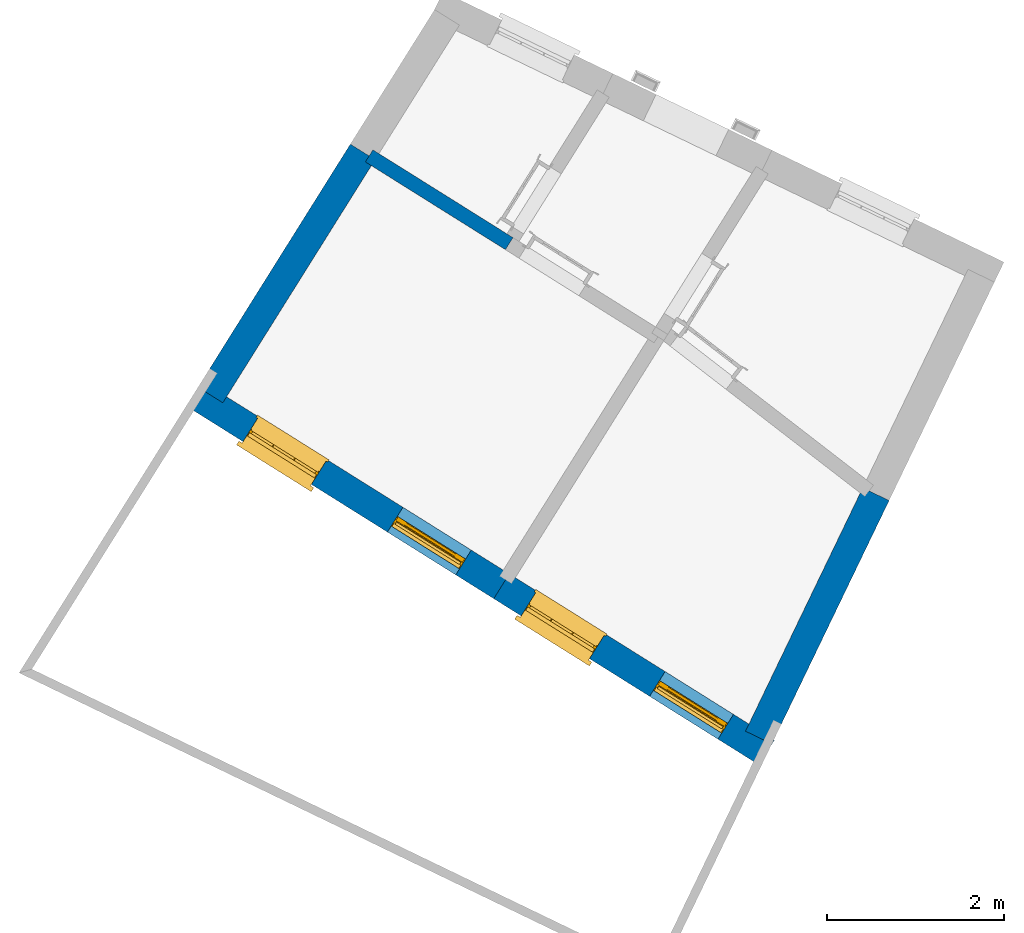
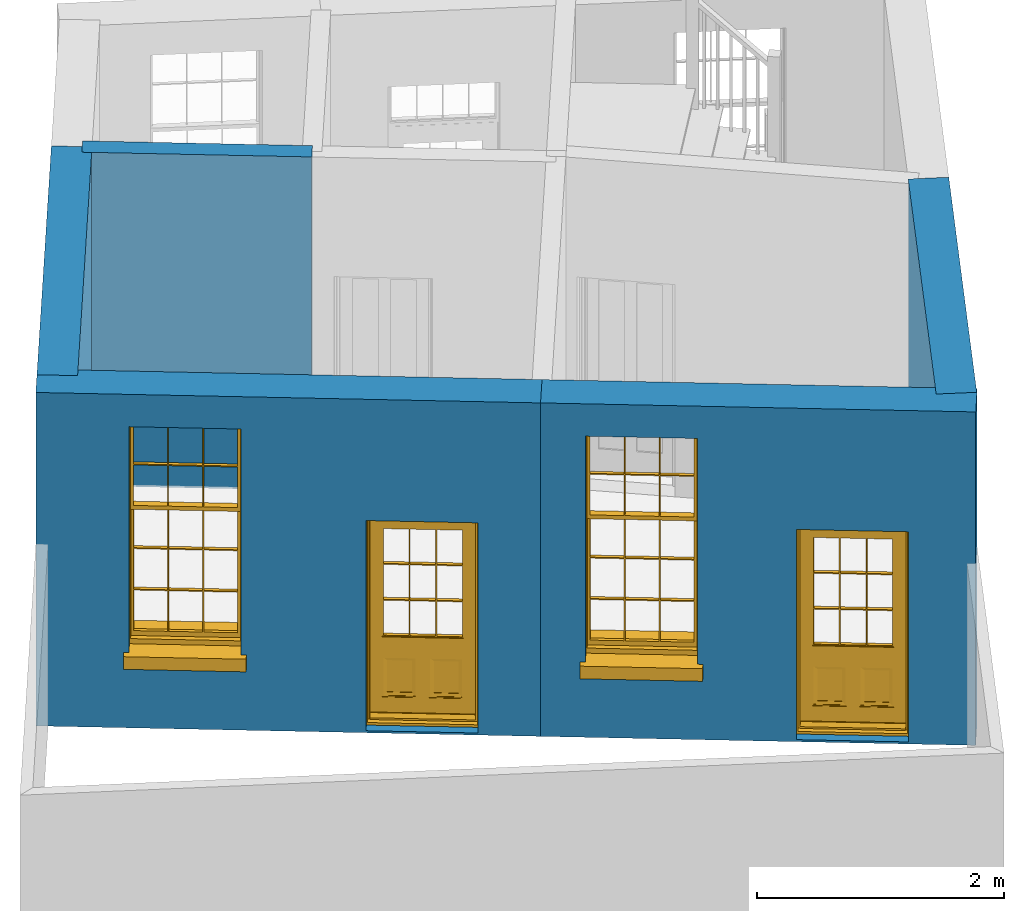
# One storey, part 2 of 6: 5 walls, 2 doors, 2 windows, 4 openings.
"""IFC4 building model written with IfcOpenShell, lengths in metres."""

from ifc_helpers import new_model, si_unit, frame, origin, origin_with_axes, place, context, subcontext, project, spatial, polyline, outline, extrude, faceted_brep, source, transform, mapped, material, layer, layer_set, layer_usage, type_object, type_shapes, element, fill, save


model = new_model("IFC4")

# Units and contexts
model_context = context("Model", 3, world=origin_with_axes())
body_context = subcontext(model_context, "Body", "Model", "MODEL_VIEW")
ifc_project = project(units=[si_unit("PLANEANGLEUNIT", "RADIAN"), si_unit("MASSUNIT", "GRAM", prefix="KILO"), si_unit("FORCEUNIT", "NEWTON", prefix="KILO"), si_unit("LENGTHUNIT", "METRE"), si_unit("AREAUNIT", "SQUARE_METRE"), si_unit("VOLUMEUNIT", "CUBIC_METRE")], contexts=[model_context, model_context])

# Sites, building, storey
site_1_placement = place(None, origin_with_axes())
site_1 = spatial("IfcSite", under=ifc_project, at=site_1_placement, Name="Tamar")
site_2_placement = place(site_1_placement, origin_with_axes())
site_2 = spatial("IfcSite", under=site_1, at=site_2_placement, Name="Site plot-0", CompositionType="ELEMENT")
building_placement = place(None, origin_with_axes())
building = spatial("IfcBuilding", under=site_2, at=building_placement, Name="Building plot-0", CompositionType="ELEMENT")
storey_placement = place(None, frame((0.0, 0.0, 26.0), z_axis=(0.0, 0.0, 1.0), x_axis=(1.0, 0.0, 0.0)))
storey = spatial("IfcBuildingStorey", under=building, at=storey_placement, Name="plot-0 0", CompositionType="ELEMENT", Elevation=26.0)

# Wall, openings, window, door
ifc_material_1 = material(Name="Masonry")
ifc_layer_1 = layer(ifc_material_1, 0.33, ventilated=False)
ifc_layer_set_1 = layer_set([ifc_layer_1], Name="exterior_0.08_0.25")
ifc_layer_usage_1 = layer_usage(ifc_layer_set_1, "AXIS2", "POSITIVE", -0.25)
wall_type_1 = type_object("IfcWallType", Name="exterior_0.08_0.25", PredefinedType="SOLIDWALL", material=ifc_layer_set_1)
wall_1_placement = place(storey_placement, frame((212.849237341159, 298.651687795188, 0.0), z_axis=(0.0, 0.0, 1.0), x_axis=(0.847406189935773, -0.530945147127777, 0.0)))
wall_1 = element("IfcWall", 1, at=wall_1_placement, inside=storey, type_object=wall_type_1, material=ifc_layer_usage_1, Name="exterior", context=body_context, shape_type="SweptSolid", body=[
    extrude(outline(polyline([(-0.250000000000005, 0.0799999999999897), (-0.250000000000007, -0.250000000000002), (3.84468144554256, -0.250000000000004), (3.84468144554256, 0.0799999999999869), (-0.250000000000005, 0.0799999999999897)])), origin_with_axes(), (0.0, 0.0, 1.0), 3.3),
])
opening_1_placement = place(wall_1_placement, frame((0.50617036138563, 0.0, 0.75)))
opening_1 = element("IfcOpeningElement", 2, at=opening_1_placement, cuts=wall_1, Name="My Opening", ObjectType="Opening", context=body_context, shape_type="SweptSolid", body=[
    extrude(outline(polyline([(0.0, -0.26999999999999), (0.910000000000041, -0.270000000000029), (0.910000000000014, 1.09999999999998), (-2.67563748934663e-14, 1.10000000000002), (0.0, -0.26999999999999)])), origin_with_axes(), (0.0, 0.0, 1.0), 2.23),
])
opening_2_placement = place(wall_1_placement, frame((2.4285110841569, 0.0, 0.0199999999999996)))
opening_2 = element("IfcOpeningElement", 3, at=opening_2_placement, cuts=wall_1, Name="My Opening", ObjectType="Opening", context=body_context, shape_type="SweptSolid", body=[
    extrude(outline(polyline([(0.0, -0.269999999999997), (0.910000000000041, -0.270000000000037), (0.910000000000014, 1.09999999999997), (-2.66453525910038e-14, 1.10000000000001), (0.0, -0.269999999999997)])), origin_with_axes(), (0.0, 0.0, 1.0), 2.08),
])
window_type = type_object("IfcWindowType", Name="sash_big_taller", PartitioningType="DOUBLE_PANEL_HORIZONTAL", PredefinedType="NOTDEFINED")
shared_shape_1 = source(origin(), body_context, "Body", "Brep", [
    faceted_brep([(0.033125, 0.145, 1.385209), (0.01, 0.145, 1.385209), (0.033125, 0.145, 1.786042), (0.876875, 0.145, 1.385209), (0.876875, 0.145, 1.786042), (0.9, 0.145, 1.385209), (0.876875, 0.145, 1.796042), (0.876875, 0.145, 2.196875), (0.9, 0.145, 2.22), (0.033125, 0.145, 2.196875), (0.033125, 0.145, 1.796042), (0.01, 0.145, 2.22), (0.876875, 0.115, 1.786042), (0.876875, 0.115, 1.385209), (0.9, 0.115, 1.347084), (0.033125, 0.115, 2.196875), (0.01, 0.115, 2.22), (0.033125, 0.115, 1.796042), (0.01, 0.115, 1.347084), (0.033125, 0.115, 1.385209), (0.033125, 0.115, 1.786042), (0.876875, 0.115, 2.196875), (0.876875, 0.115, 1.796042), (0.9, 0.115, 2.22), (0.033125, 0.145, 1.347084), (0.01, 0.145, 1.347084), (0.033125, 0.145, 0.94625), (0.876875, 0.145, 1.347084), (0.876875, 0.145, 0.94625), (0.9, 0.145, 1.347084), (0.876875, 0.145, 0.52625), (0.876875, 0.145, 0.125417), (0.9, 0.145, 0.077167), (0.033125, 0.145, 0.125417), (0.033125, 0.145, 0.52625), (0.01, 0.145, 0.077167), (-0.0425, 0.0, 0.01), (-0.0425, -0.05, 0.001667), (0.0, 0.0, 0.01), (0.9525, 0.0, 0.01), (0.91, 0.0, 0.01), (0.9525, -0.05, 0.001667), (-0.02, 0.33, 0.077167), (0.0, 0.33, 0.077167), (-0.02, 0.36, 0.077167), (0.0, 0.19, 0.077167), (0.01, 0.19, 0.077167), (0.91, 0.19, 0.077167), (0.91, 0.33, 0.077167), (0.9, 0.19, 0.077167), (0.93, 0.33, 0.077167), (0.93, 0.36, 0.077167), (0.01, 0.175, 1.385209), (0.9, 0.175, 1.385209), (0.876875, 0.175, 0.125417), (0.876875, 0.175, 0.52625), (0.9, 0.175, 0.077167), (0.876875, 0.175, 0.94625), (0.876875, 0.175, 1.347084), (0.033125, 0.175, 0.125417), (0.01, 0.175, 0.077167), (0.033125, 0.175, 0.52625), (0.033125, 0.175, 1.347084), (0.033125, 0.175, 0.94625), (-0.02, 0.33, 0.052167), (-0.02, 0.36, 0.052167), (0.93, 0.36, 0.052167), (0.93, 0.33, 0.052167), (0.91, 0.33, 0.052167), (0.0, 0.33, 0.052167), (0.91, 0.1, 0.026667), (0.0, 0.1, 0.026667), (-0.0425, -0.05, -0.123333), (0.9525, -0.05, -0.123333), (-0.0425, 0.0, -0.123333), (0.9525, 0.0, -0.123333), (0.01, 0.19, 2.22), (0.9, 0.19, 2.22), (0.0, 0.19, 2.23), (0.91, 0.19, 2.23), (0.01, 0.1, 0.077167), (0.9, 0.1, 0.077167), (0.592292, 0.145, 0.125417), (0.592292, 0.175, 0.125417), (0.317708, 0.175, 0.125417), (0.317708, 0.145, 0.125417), (0.592292, 0.145, 0.53625), (0.317708, 0.145, 0.53625), (0.317708, 0.145, 0.52625), (0.592292, 0.145, 0.52625), (0.592292, 0.175, 0.53625), (0.317708, 0.175, 0.53625), (0.592292, 0.115, 1.796042), (0.592292, 0.145, 1.796042), (0.317708, 0.145, 1.796042), (0.317708, 0.115, 1.796042), (0.317708, 0.115, 1.786042), (0.592292, 0.115, 1.786042), (0.317708, 0.145, 1.786042), (0.592292, 0.145, 1.786042), (0.602292, 0.115, 1.786042), (0.592292, 0.115, 1.385209), (0.602292, 0.115, 1.385209), (0.602292, 0.145, 1.385209), (0.592292, 0.145, 1.385209), (0.602292, 0.145, 1.786042), (0.876875, 0.145, 0.53625), (0.876875, 0.175, 0.53625), (0.602292, 0.175, 0.53625), (0.602292, 0.145, 0.53625), (0.317708, 0.175, 0.52625), (0.307708, 0.175, 0.125417), (0.307708, 0.175, 0.52625), (0.602292, 0.175, 0.52625), (0.602292, 0.175, 0.125417), (0.592292, 0.175, 0.52625), (0.307708, 0.175, 0.53625), (0.033125, 0.175, 0.53625), (0.317708, 0.175, 1.347084), (0.317708, 0.175, 0.94625), (0.307708, 0.175, 0.94625), (0.307708, 0.175, 1.347084), (0.602292, 0.175, 1.347084), (0.602292, 0.175, 0.94625), (0.592292, 0.175, 0.94625), (0.592292, 0.175, 1.347084), (0.307708, 0.145, 0.52625), (0.307708, 0.145, 0.125417), (0.307708, 0.145, 0.53625), (0.033125, 0.145, 0.53625), (0.307708, 0.145, 1.347084), (0.307708, 0.145, 0.94625), (0.592292, 0.145, 1.347084), (0.592292, 0.145, 0.94625), (0.317708, 0.145, 0.94625), (0.317708, 0.145, 1.347084), (0.602292, 0.145, 0.94625), (0.602292, 0.145, 1.347084), (0.602292, 0.145, 0.52625), (0.602292, 0.145, 0.125417), (0.307708, 0.115, 1.796042), (0.307708, 0.115, 1.786042), (0.307708, 0.115, 1.385209), (0.317708, 0.115, 1.385209), (0.317708, 0.115, 2.196875), (0.307708, 0.115, 2.196875), (0.602292, 0.115, 2.196875), (0.592292, 0.115, 2.196875), (0.602292, 0.115, 1.796042), (0.602292, 0.145, 1.796042), (0.307708, 0.145, 1.796042), (0.307708, 0.145, 2.196875), (0.317708, 0.145, 2.196875), (0.592292, 0.145, 2.196875), (0.602292, 0.145, 2.196875), (0.307708, 0.145, 1.786042), (0.317708, 0.145, 1.385209), (0.307708, 0.145, 1.385209), (0.876875, 0.175, 0.93625), (0.033125, 0.175, 0.93625), (0.033125, 0.145, 0.93625), (0.876875, 0.145, 0.93625), (0.91, 0.1, 2.23), (0.9, 0.1, 2.22), (0.01, 0.1, 2.22), (0.0, 0.1, 2.23), (0.91, 0.0, 0.0), (0.0, 0.0, 0.0), (0.91, 0.33, 0.0), (0.0, 0.33, 0.0), (0.317708, 0.145, 0.93625), (0.592292, 0.145, 0.93625), (0.317708, 0.175, 0.93625), (0.307708, 0.175, 0.93625), (0.602292, 0.175, 0.93625), (0.592292, 0.175, 0.93625), (0.307708, 0.145, 0.93625), (0.602292, 0.145, 0.93625)], [[[0, 1, 2]], [[3, 4, 5]], [[6, 7, 8]], [[9, 10, 11]], [[12, 13, 14]], [[15, 16, 17]], [[18, 19, 20]], [[21, 22, 23]], [[24, 25, 26]], [[27, 28, 29]], [[30, 31, 32]], [[33, 34, 35]], [[14, 27, 29]], [[25, 24, 18]], [[36, 37, 38]], [[39, 40, 41]], [[42, 43, 44]], [[45, 46, 43]], [[47, 48, 49]], [[50, 51, 48]], [[1, 0, 52]], [[5, 53, 3]], [[54, 55, 56]], [[57, 58, 53]], [[59, 60, 61]], [[62, 63, 52]], [[48, 43, 46, 49]], [[51, 44, 43, 48]], [[64, 42, 44, 65]], [[65, 44, 51, 66]], [[66, 51, 50, 67]], [[65, 66, 68, 69]], [[60, 56, 49, 46]], [[70, 71, 38, 40]], [[37, 41, 40, 38]], [[37, 72, 73, 41]], [[74, 75, 73, 72]], [[8, 11, 76, 77]], [[76, 78, 79, 77]], [[32, 35, 80, 81]], [[81, 80, 71, 70]], [[82, 83, 84, 85]], [[86, 87, 88, 89]], [[86, 90, 91, 87]], [[92, 93, 94, 95]], [[92, 95, 96, 97]], [[96, 98, 99, 97]], [[100, 97, 101, 102]], [[103, 104, 99, 105]], [[97, 99, 104, 101]], [[102, 103, 105, 100]], [[106, 107, 108, 109]], [[110, 84, 111, 112]], [[113, 114, 83, 115]], [[116, 112, 61, 117]], [[90, 115, 110, 91]], [[118, 119, 120, 121]], [[122, 123, 124, 125]], [[113, 108, 107, 55]], [[126, 112, 111, 127]], [[34, 61, 112, 126]], [[89, 115, 83, 82]], [[88, 110, 115, 89]], [[85, 84, 110, 88]], [[128, 116, 117, 129]], [[130, 121, 120, 131]], [[132, 125, 124, 133]], [[134, 119, 118, 135]], [[136, 123, 122, 137]], [[138, 113, 55, 30]], [[139, 114, 113, 138]], [[138, 30, 106, 109]], [[88, 126, 127, 85]], [[138, 89, 82, 139]], [[137, 132, 133, 136]], [[128, 129, 34, 126]], [[135, 130, 131, 134]], [[140, 17, 20, 141]], [[96, 141, 142, 143]], [[144, 145, 140, 95]], [[146, 147, 92, 148]], [[100, 12, 22, 148]], [[149, 6, 4, 105]], [[94, 150, 151, 152]], [[149, 93, 153, 154]], [[99, 98, 94, 93]], [[155, 2, 10, 150]], [[156, 157, 155, 98]], [[141, 155, 157, 142]], [[20, 2, 155, 141]], [[143, 156, 98, 96]], [[140, 150, 10, 17]], [[145, 151, 150, 140]], [[147, 153, 93, 92]], [[95, 94, 152, 144]], [[22, 6, 149, 148]], [[148, 149, 154, 146]], [[100, 105, 4, 12]], [[109, 86, 89, 138]], [[108, 113, 115, 90]], [[91, 110, 112, 116]], [[87, 128, 126, 88]], [[97, 100, 148, 92]], [[141, 96, 95, 140]], [[98, 155, 150, 94]], [[105, 99, 93, 149]], [[143, 101, 104, 156]], [[135, 118, 125, 132]], [[144, 152, 153, 147]], [[127, 111, 59, 33]], [[15, 9, 151, 145]], [[146, 154, 7, 21]], [[31, 54, 114, 139]], [[36, 74, 72, 37]], [[39, 41, 73, 75]], [[18, 14, 101, 143]], [[23, 16, 144, 147]], [[83, 56, 60, 84]], [[52, 53, 125, 118]], [[53, 52, 156, 104]], [[11, 8, 153, 152]], [[14, 18, 135, 132]], [[2, 1, 11, 10]], [[8, 5, 4, 6]], [[57, 53, 56, 158]], [[60, 52, 63, 159]], [[26, 25, 35, 160]], [[32, 29, 28, 161]], [[14, 23, 22, 12]], [[18, 20, 17, 16]], [[19, 0, 2, 20]], [[17, 10, 9, 15]], [[12, 4, 3, 13]], [[21, 7, 6, 22]], [[27, 58, 57, 28]], [[30, 55, 54, 31]], [[33, 59, 61, 34]], [[26, 63, 62, 24]], [[5, 8, 77, 53]], [[76, 11, 1, 52]], [[46, 45, 78, 76]], [[49, 77, 79, 47]], [[70, 162, 163, 81]], [[71, 80, 164, 165]], [[19, 142, 157, 0]], [[102, 13, 3, 103]], [[121, 130, 24, 62]], [[29, 32, 81, 14]], [[80, 35, 25, 18]], [[60, 46, 76, 52]], [[77, 49, 56, 53]], [[23, 14, 81, 163]], [[16, 164, 80, 18]], [[35, 85, 127]], [[127, 33, 35]], [[139, 82, 32]], [[32, 31, 139]], [[32, 82, 85, 35]], [[102, 101, 14]], [[14, 13, 102]], [[18, 143, 142]], [[142, 19, 18]], [[146, 21, 23]], [[23, 147, 146]], [[16, 15, 145]], [[145, 144, 16]], [[11, 152, 151]], [[151, 9, 11]], [[154, 153, 8]], [[8, 7, 154]], [[23, 163, 164, 16]], [[162, 165, 164, 163]], [[52, 118, 121]], [[121, 62, 52]], [[125, 53, 122]], [[58, 122, 53]], [[27, 137, 122, 58]], [[56, 83, 114]], [[114, 54, 56]], [[111, 84, 60]], [[60, 59, 111]], [[137, 27, 14]], [[14, 132, 137]], [[130, 135, 18]], [[18, 24, 130]], [[157, 156, 52]], [[52, 0, 157]], [[103, 3, 53]], [[53, 104, 103]], [[79, 78, 165, 162]], [[78, 45, 71, 165]], [[162, 70, 47, 79]], [[166, 75, 74, 167]], [[68, 66, 67]], [[48, 68, 67, 50]], [[69, 64, 65]], [[42, 64, 69, 43]], [[69, 68, 168, 169]], [[70, 68, 48, 47]], [[166, 168, 68, 70]], [[43, 69, 71, 45]], [[69, 169, 167, 71]], [[168, 166, 167, 169]], [[38, 167, 74, 36]], [[71, 167, 38]], [[39, 75, 166, 40]], [[40, 166, 70]], [[133, 134, 170, 171]], [[133, 124, 119, 134]], [[28, 57, 123, 136]], [[172, 91, 116, 173]], [[174, 108, 90, 175]], [[120, 173, 159, 63]], [[124, 175, 172, 119]], [[174, 123, 57, 158]], [[176, 173, 116, 128]], [[160, 159, 173, 176]], [[171, 175, 90, 86]], [[170, 172, 175, 171]], [[87, 91, 172, 170]], [[131, 120, 63, 26]], [[177, 174, 158, 161]], [[109, 108, 174, 177]], [[177, 161, 28, 136]], [[170, 176, 128, 87]], [[177, 171, 86, 109]], [[131, 26, 160, 176]], [[136, 133, 171, 177]], [[123, 174, 175, 124]], [[119, 172, 173, 120]], [[134, 131, 176, 170]], [[129, 117, 159, 160]], [[161, 158, 107, 106]], [[35, 34, 129]], [[35, 129, 160]], [[32, 106, 30]], [[32, 161, 106]], [[56, 55, 107]], [[56, 107, 158]], [[60, 117, 61]], [[60, 159, 117]]]),
])
type_shapes(window_type, [shared_shape_1])
window_1_placement = place(storey_placement, frame((213.134814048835, 298.154139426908, 0.75), z_axis=(0.0, 0.0, 1.0), x_axis=(0.771139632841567, -0.483160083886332, 0.0)))
window_1 = element("IfcWindow", 4, at=window_1_placement, inside=storey, type_object=window_type, Name="bedroom outside window", OverallHeight=2.23, OverallWidth=0.91, context=body_context, shape_type="MappedRepresentation", body=[
    mapped(shared_shape_1, transform((0.0, 0.0, 0.0), scale=1.0)),
])
fill(opening_1, window_1)
door_type = type_object("IfcDoorType", Name="door_panelled", OperationType="SINGLE_SWING_LEFT", PredefinedType="NOTDEFINED")
shared_shape_2 = source(origin(), body_context, "Body", "Brep", [
    faceted_brep([(0.545, 0.195, 0.265), (0.745, 0.195, 0.265), (0.745, 0.2, 0.265), (0.545, 0.2, 0.265), (0.745, 0.2, 0.58), (0.545, 0.2, 0.58), (0.545, 0.195, 0.58), (0.515, 0.19, 0.235), (0.775, 0.19, 0.235), (0.745, 0.195, 0.58), (0.515, 0.19, 0.61), (0.515, 0.185, 0.235), (0.775, 0.185, 0.235), (0.775, 0.19, 0.61), (0.515, 0.185, 0.61), (0.785, 0.185, 0.225), (0.505, 0.185, 0.225), (0.775, 0.185, 0.61), (0.505, 0.185, 0.62), (0.785, 0.185, 0.62), (0.505, 0.18, 0.225), (0.785, 0.18, 0.225), (0.505, 0.18, 0.62), (0.785, 0.18, 0.62), (0.883, 0.18, 0.075), (0.898, 0.18, 0.075), (0.405, 0.18, 0.62), (0.405, 0.18, 0.225), (0.027, 0.18, 0.075), (0.785, 0.18, 0.82), (0.125, 0.18, 0.82), (0.405, 0.185, 0.62), (0.405, 0.185, 0.225), (0.898, 0.18, 2.068), (0.027, 0.17, 0.075), (0.883, 0.17, 0.075), (0.125, 0.18, 0.225), (0.012, 0.18, 0.075), (0.785, 0.19, 0.82), (0.125, 0.19, 0.82), (0.125, 0.18, 0.62), (0.125, 0.185, 0.62), (0.395, 0.185, 0.61), (0.395, 0.185, 0.235), (0.125, 0.185, 0.225), (0.785, 0.18, 1.895), (0.027, 0.14, 0.045), (0.883, 0.14, 0.045), (0.558333, 0.19, 0.83), (0.351667, 0.19, 0.83), (0.125, 0.18, 1.895), (0.125, 0.19, 1.895), (0.785, 0.19, 1.895), (0.012, 0.18, 2.068), (0.135, 0.185, 0.61), (0.395, 0.19, 0.61), (0.395, 0.19, 0.235), (0.135, 0.185, 0.235), (0.027, 0.14, 0.027), (0.883, 0.14, 0.027), (0.568333, 0.19, 0.83), (0.558333, 0.22, 0.83), (0.351667, 0.22, 0.83), (0.341667, 0.19, 0.83), (0.135, 0.19, 1.185), (0.135, 0.19, 1.53), (0.775, 0.19, 1.53), (0.775, 0.19, 1.185), (0.135, 0.19, 0.61), (0.365, 0.195, 0.58), (0.365, 0.195, 0.265), (0.135, 0.19, 0.235), (0.568333, 0.19, 1.175), (0.558333, 0.19, 1.175), (0.775, 0.19, 0.83), (0.558333, 0.22, 1.175), (0.785, 0.22, 0.82), (0.125, 0.22, 0.82), (0.351667, 0.22, 1.175), (0.351667, 0.19, 1.175), (0.341667, 0.19, 1.175), (0.135, 0.19, 0.83), (0.135, 0.19, 1.175), (0.135, 0.22, 1.185), (0.135, 0.22, 1.53), (0.135, 0.19, 1.54), (0.351667, 0.19, 1.885), (0.558333, 0.19, 1.885), (0.775, 0.22, 1.53), (0.775, 0.22, 1.185), (0.775, 0.19, 1.175), (0.775, 0.19, 1.54), (0.165, 0.195, 0.58), (0.365, 0.2, 0.58), (0.365, 0.2, 0.265), (0.165, 0.195, 0.265), (0.568333, 0.22, 0.83), (0.568333, 0.22, 1.175), (0.568333, 0.19, 1.185), (0.558333, 0.19, 1.185), (0.775, 0.22, 0.83), (0.785, 0.23, 0.82), (0.125, 0.23, 0.82), (0.341667, 0.22, 0.83), (0.341667, 0.22, 1.175), (0.351667, 0.19, 1.185), (0.341667, 0.19, 1.185), (0.135, 0.22, 0.83), (0.341667, 0.22, 1.185), (0.125, 0.22, 1.895), (0.341667, 0.22, 1.53), (0.341667, 0.19, 1.53), (0.135, 0.19, 1.885), (0.341667, 0.19, 1.54), (0.341667, 0.19, 1.885), (0.558333, 0.22, 1.885), (0.351667, 0.22, 1.885), (0.568333, 0.19, 1.885), (0.785, 0.22, 1.895), (0.568333, 0.22, 1.185), (0.568333, 0.19, 1.53), (0.568333, 0.22, 1.53), (0.568333, 0.19, 1.54), (0.775, 0.19, 1.885), (0.165, 0.2, 0.58), (0.165, 0.2, 0.265), (0.775, 0.22, 1.175), (0.558333, 0.19, 1.53), (0.351667, 0.22, 1.185), (0.558333, 0.22, 1.185), (0.505, 0.23, 0.62), (0.405, 0.23, 0.62), (0.125, 0.23, 1.895), (0.785, 0.23, 1.895), (0.351667, 0.19, 1.53), (0.135, 0.22, 1.175), (0.135, 0.22, 1.54), (0.341667, 0.22, 1.54), (0.135, 0.22, 1.885), (0.351667, 0.19, 1.54), (0.558333, 0.22, 1.54), (0.558333, 0.19, 1.54), (0.351667, 0.22, 1.54), (0.775, 0.22, 1.54), (0.568333, 0.22, 1.54), (0.775, 0.22, 1.885), (0.558333, 0.22, 1.53), (0.405, 0.23, 0.225), (0.505, 0.23, 0.225), (0.125, 0.23, 0.62), (0.785, 0.23, 0.62), (0.012, 0.23, 2.068), (0.898, 0.23, 2.068), (0.351667, 0.22, 1.53), (0.341667, 0.22, 1.885), (0.568333, 0.22, 1.885), (0.405, 0.225, 0.225), (0.405, 0.225, 0.62), (0.505, 0.225, 0.62), (0.505, 0.225, 0.225), (0.898, 0.23, 0.027), (0.012, 0.23, 0.027), (0.125, 0.225, 0.62), (0.785, 0.225, 0.62), (0.395, 0.225, 0.235), (0.395, 0.225, 0.61), (0.125, 0.23, 0.225), (0.125, 0.225, 0.225), (0.515, 0.225, 0.61), (0.515, 0.225, 0.235), (0.785, 0.23, 0.225), (0.785, 0.225, 0.225), (0.135, 0.225, 0.61), (0.775, 0.225, 0.61), (0.135, 0.225, 0.235), (0.395, 0.22, 0.235), (0.395, 0.22, 0.61), (0.515, 0.22, 0.61), (0.515, 0.22, 0.235), (0.775, 0.225, 0.235), (0.135, 0.22, 0.61), (0.775, 0.22, 0.61), (0.135, 0.22, 0.235), (0.365, 0.215, 0.265), (0.365, 0.215, 0.58), (0.545, 0.215, 0.58), (0.545, 0.215, 0.265), (0.775, 0.22, 0.235), (0.165, 0.215, 0.58), (0.745, 0.215, 0.58), (0.165, 0.215, 0.265), (0.365, 0.21, 0.58), (0.365, 0.21, 0.265), (0.545, 0.21, 0.58), (0.545, 0.21, 0.265), (0.745, 0.215, 0.265), (0.165, 0.21, 0.58), (0.745, 0.21, 0.58), (0.165, 0.21, 0.265), (0.745, 0.21, 0.265), (0.885, 0.178, 0.025), (0.025, 0.178, 0.025), (0.025, 0.15, 0.025), (0.885, 0.15, 0.025), (0.9, 0.23, 0.025), (0.01, 0.23, 0.025), (0.9, 0.178, 0.025), (0.91, 0.23, 0.0), (0.0, 0.23, 0.0), (0.01, 0.178, 0.025), (0.9, 0.178, 2.07), (0.9, 0.23, 2.07), (0.885, 0.178, 2.055), (0.91, 0.23, 2.08), (0.01, 0.23, 2.07), (0.0, 0.23, 2.08), (0.01, 0.178, 2.07), (0.025, 0.178, 2.055), (0.0, 0.1, 2.08), (0.91, 0.1, 2.08), (0.01, 0.1, 2.07), (0.9, 0.1, 2.07), (0.01, 0.15, 2.07), (0.9, 0.15, 2.07), (0.0, 0.1, 0.0), (0.91, 0.1, 0.0), (0.01, 0.1, 0.025), (0.9, 0.1, 0.025), (0.01, 0.15, 0.025), (0.025, 0.15, 2.055), (0.9, 0.15, 0.025), (0.885, 0.15, 2.055), (0.898, 0.18, 0.027), (0.012, 0.18, 0.027), (0.883, 0.18, 0.027), (0.027, 0.18, 0.027)], [[[0, 1, 2, 3]], [[2, 4, 5, 3]], [[0, 3, 5, 6]], [[1, 0, 7, 8]], [[9, 4, 2, 1]], [[9, 6, 5, 4]], [[0, 6, 10, 7]], [[8, 7, 11, 12]], [[8, 13, 9, 1]], [[13, 10, 6, 9]], [[7, 10, 14, 11]], [[15, 12, 11, 16]], [[12, 17, 13, 8]], [[17, 14, 10, 13]], [[18, 16, 11, 14]], [[15, 19, 17, 12]], [[15, 16, 20, 21]], [[14, 17, 19, 18]], [[16, 18, 22, 20]], [[21, 23, 19, 15]], [[24, 25, 21, 20]], [[23, 22, 18, 19]], [[20, 22, 26, 27]], [[23, 21, 25]], [[28, 24, 20, 27]], [[22, 23, 29]], [[29, 30, 26, 22]], [[27, 26, 31, 32]], [[23, 25, 33, 29]], [[34, 35, 24, 28]], [[28, 27, 36, 37]], [[38, 39, 30, 29]], [[26, 30, 40]], [[26, 40, 41, 31]], [[42, 43, 32, 31]], [[32, 44, 36, 27]], [[33, 45, 29]], [[46, 47, 35, 34]], [[36, 40, 37]], [[39, 38, 48, 49]], [[50, 30, 39, 51]], [[29, 45, 52, 38]], [[53, 37, 40, 30]], [[44, 41, 40, 36]], [[31, 41, 54, 42]], [[43, 42, 55, 56]], [[57, 44, 32, 43]], [[50, 45, 33, 53]], [[47, 46, 58, 59]], [[60, 48, 38]], [[49, 48, 61, 62]], [[49, 63, 39]], [[50, 53, 30]], [[51, 39, 64, 65]], [[45, 50, 51, 52]], [[66, 67, 38, 52]], [[57, 54, 41, 44]], [[42, 54, 68, 55]], [[56, 55, 69, 70]], [[56, 71, 57, 43]], [[60, 72, 73, 48]], [[60, 38, 74]], [[48, 73, 75, 61]], [[76, 77, 62, 61]], [[62, 78, 79, 49]], [[49, 79, 80, 63]], [[63, 81, 39]], [[82, 64, 39]], [[65, 64, 83, 84]], [[85, 51, 65]], [[52, 51, 86, 87]], [[88, 89, 67, 66]], [[90, 38, 67]], [[91, 66, 52]], [[71, 68, 54, 57]], [[55, 68, 92, 69]], [[69, 93, 94, 70]], [[70, 95, 71, 56]], [[96, 97, 72, 60]], [[73, 72, 98, 99]], [[74, 38, 90]], [[100, 96, 60, 74]], [[75, 73, 79, 78]], [[61, 75, 97, 96]], [[101, 102, 77, 76]], [[77, 103, 62]], [[96, 76, 61]], [[103, 104, 78, 62]], [[80, 79, 105, 106]], [[63, 80, 104, 103]], [[81, 63, 103, 107]], [[81, 82, 39]], [[106, 64, 82, 80]], [[106, 108, 83, 64]], [[84, 83, 77, 109]], [[110, 111, 65, 84]], [[112, 51, 85]], [[113, 85, 65, 111]], [[114, 86, 51]], [[115, 87, 86, 116]], [[117, 52, 87]], [[118, 76, 89, 88]], [[119, 98, 67, 89]], [[120, 121, 88, 66]], [[67, 98, 72, 90]], [[91, 122, 120, 66]], [[91, 52, 123]], [[95, 92, 68, 71]], [[69, 92, 124, 93]], [[94, 93, 124, 125]], [[94, 125, 95, 70]], [[72, 97, 126, 90]], [[127, 99, 98, 120]], [[99, 105, 79, 73]], [[74, 90, 126, 100]], [[96, 100, 76]], [[128, 129, 75, 78]], [[97, 75, 129, 119]], [[130, 131, 102, 101]], [[109, 77, 102, 132]], [[133, 101, 76, 118]], [[77, 107, 103]], [[78, 104, 108, 128]], [[111, 106, 105, 134]], [[104, 80, 82, 135]], [[107, 135, 82, 81]], [[110, 108, 106, 111]], [[104, 135, 83, 108]], [[83, 135, 77]], [[136, 84, 109]], [[110, 84, 136, 137]], [[114, 51, 112]], [[85, 136, 138, 112]], [[113, 137, 136, 85]], [[111, 134, 139, 113]], [[86, 114, 113, 139]], [[140, 141, 87, 115]], [[139, 142, 116, 86]], [[109, 118, 115, 116]], [[117, 123, 52]], [[117, 87, 141, 122]], [[126, 89, 76]], [[143, 118, 88]], [[120, 98, 119, 121]], [[119, 89, 126, 97]], [[144, 143, 88, 121]], [[144, 122, 91, 143]], [[127, 120, 122, 141]], [[143, 91, 123, 145]], [[124, 92, 95, 125]], [[146, 129, 99, 127]], [[99, 129, 128, 105]], [[100, 126, 76]], [[121, 119, 129, 146]], [[147, 131, 130, 148]], [[131, 149, 102]], [[130, 101, 150]], [[102, 151, 132]], [[118, 109, 132, 133]], [[101, 133, 152]], [[107, 77, 135]], [[153, 128, 108, 110]], [[134, 105, 128, 153]], [[109, 138, 136]], [[153, 110, 137, 142]], [[154, 114, 112, 138]], [[137, 113, 114, 154]], [[141, 139, 134, 127]], [[141, 140, 142, 139]], [[144, 140, 115, 155]], [[142, 137, 154, 116]], [[155, 115, 118]], [[116, 154, 109]], [[117, 155, 145, 123]], [[122, 144, 155, 117]], [[143, 145, 118]], [[121, 146, 140, 144]], [[146, 127, 134, 153]], [[156, 157, 131, 147]], [[148, 130, 158, 159]], [[148, 160, 161, 147]], [[157, 162, 149, 131]], [[161, 151, 102, 149]], [[101, 152, 160, 150]], [[163, 158, 130, 150]], [[151, 152, 133, 132]], [[154, 138, 109]], [[142, 140, 146, 153]], [[145, 155, 118]], [[157, 156, 164, 165]], [[147, 166, 167, 156]], [[168, 169, 159, 158]], [[170, 148, 159, 171]], [[148, 170, 160]], [[166, 147, 161]], [[172, 162, 157, 165]], [[166, 149, 162, 167]], [[166, 161, 149]], [[150, 160, 170]], [[163, 173, 168, 158]], [[171, 163, 150, 170]], [[174, 164, 156, 167]], [[175, 176, 165, 164]], [[169, 168, 177, 178]], [[171, 159, 169, 179]], [[167, 162, 172, 174]], [[176, 180, 172, 165]], [[179, 173, 163, 171]], [[181, 177, 168, 173]], [[164, 174, 182, 175]], [[183, 184, 176, 175]], [[178, 177, 185, 186]], [[179, 169, 178, 187]], [[174, 172, 180, 182]], [[184, 188, 180, 176]], [[187, 181, 173, 179]], [[189, 185, 177, 181]], [[175, 182, 190, 183]], [[191, 184, 183, 192]], [[185, 193, 194, 186]], [[187, 178, 186, 195]], [[182, 180, 188, 190]], [[191, 196, 188, 184]], [[195, 189, 181, 187]], [[197, 193, 185, 189]], [[183, 190, 198, 192]], [[198, 196, 191, 192]], [[194, 193, 197, 199]], [[195, 186, 194, 199]], [[188, 196, 198, 190]], [[197, 189, 195, 199]], [[200, 201, 202, 203]], [[201, 200, 204, 205]], [[206, 204, 200]], [[204, 207, 208, 205]], [[209, 201, 205]], [[210, 211, 204, 206]], [[206, 200, 212, 210]], [[211, 213, 207, 204]], [[214, 205, 208, 215]], [[216, 217, 201, 209]], [[205, 214, 216, 209]], [[216, 214, 211, 210]], [[210, 212, 217, 216]], [[214, 215, 213, 211]], [[218, 219, 213, 215]], [[219, 218, 220, 221]], [[221, 220, 222, 223]], [[215, 208, 224, 218]], [[225, 224, 208, 207]], [[224, 226, 220, 218]], [[224, 225, 227, 226]], [[219, 225, 207, 213]], [[228, 222, 220, 226]], [[219, 221, 227, 225]], [[226, 227, 203, 202]], [[202, 229, 222, 228]], [[228, 226, 202]], [[227, 221, 223, 230]], [[230, 203, 227]], [[217, 229, 202, 201]], [[231, 223, 222, 229]], [[230, 223, 231, 203]], [[231, 229, 217, 212]], [[212, 200, 203, 231]], [[33, 152, 151, 53]], [[25, 160, 152, 33]], [[161, 37, 53, 151]], [[232, 160, 25]], [[161, 233, 37]], [[160, 232, 234]], [[24, 234, 232, 25]], [[233, 161, 235]], [[37, 233, 235, 28]], [[161, 160, 234, 235]], [[35, 47, 234, 24]], [[28, 235, 46, 34]], [[58, 235, 234, 59]], [[59, 234, 47]], [[58, 46, 235]]]),
])
type_shapes(door_type, [shared_shape_2])
door_1_placement = place(storey_placement, frame((214.763817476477, 297.133481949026, 0.0199999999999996), z_axis=(0.0, 0.0, 1.0), x_axis=(0.771139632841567, -0.483160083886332, 0.0)))
door_1 = element("IfcDoor", 5, at=door_1_placement, inside=storey, type_object=door_type, Name="bedroom outside door", OverallHeight=2.08, OverallWidth=0.91, context=body_context, shape_type="MappedRepresentation", body=[
    mapped(shared_shape_2, transform((0.0, 0.0, 0.0), scale=1.0)),
])
fill(opening_2, door_1)

wall_2_placement = place(storey_placement, frame((216.107244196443, 296.610372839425, 0.0), z_axis=(0.0, 0.0, 1.0), x_axis=(0.847406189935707, -0.530945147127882, 0.0)))
wall_2 = element("IfcWall", 6, at=wall_2_placement, inside=storey, type_object=wall_type_1, material=ifc_layer_usage_1, Name="exterior", context=body_context, shape_type="SweptSolid", body=[
    extrude(outline(polyline([(-1.07598238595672e-14, 0.0799999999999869), (2.83757851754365e-14, -0.250000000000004), (3.53044393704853, -0.250000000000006), (3.53044393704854, 0.0800000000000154), (-1.07598238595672e-14, 0.0799999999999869)])), origin_with_axes(), (0.0, 0.0, 1.0), 3.3),
])
opening_3_placement = place(wall_2_placement, frame((0.365110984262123, 0.0, 0.75)))
opening_3 = element("IfcOpeningElement", 7, at=opening_3_placement, cuts=wall_2, Name="My Opening", ObjectType="Opening", context=body_context, shape_type="SweptSolid", body=[
    extrude(outline(polyline([(0.0, -0.269999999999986), (0.909999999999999, -0.270000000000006), (0.910000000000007, 1.1), (7.71605002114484e-15, 1.10000000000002), (0.0, -0.269999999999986)])), origin_with_axes(), (0.0, 0.0, 1.0), 2.23),
])
opening_4_placement = place(wall_2_placement, frame((2.0751109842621, 0.0, 0.0199999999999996)))
opening_4 = element("IfcOpeningElement", 8, at=opening_4_placement, cuts=wall_2, Name="My Opening", ObjectType="Opening", context=body_context, shape_type="SweptSolid", body=[
    extrude(outline(polyline([(0.0, -0.269999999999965), (0.910000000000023, -0.26999999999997), (0.910000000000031, 1.10000000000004), (7.99360577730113e-15, 1.10000000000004), (0.0, -0.269999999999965)])), origin_with_axes(), (0.0, 0.0, 1.0), 2.08),
])
window_2_placement = place(storey_placement, frame((216.273286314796, 296.187719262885, 0.75), z_axis=(0.0, 0.0, 1.0), x_axis=(0.771139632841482, -0.483160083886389, 0.0)))
window_2 = element("IfcWindow", 9, at=window_2_placement, inside=storey, type_object=window_type, Name="bedroom outside window", OverallHeight=2.23, OverallWidth=0.91, context=body_context, shape_type="MappedRepresentation", body=[
    mapped(shared_shape_1, transform((0.0, 0.0, 0.0), scale=1.0)),
])
fill(opening_3, window_2)
door_2_placement = place(storey_placement, frame((217.722350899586, 295.279803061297, 0.0199999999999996), z_axis=(0.0, 0.0, 1.0), x_axis=(0.771139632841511, -0.483160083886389, 0.0)))
door_2 = element("IfcDoor", 10, at=door_2_placement, inside=storey, type_object=door_type, Name="bedroom outside door", OverallHeight=2.08, OverallWidth=0.91, context=body_context, shape_type="MappedRepresentation", body=[
    mapped(shared_shape_2, transform((0.0, 0.0, 0.0), scale=1.0)),
])
fill(opening_4, door_2)

# Walls
ifc_material_2 = material(Name="Masonry")
ifc_layer_2 = layer(ifc_material_2, 0.33, ventilated=False)
ifc_layer_set_2 = layer_set([ifc_layer_2], Name="party_0.08_0.25")
ifc_layer_usage_2 = layer_usage(ifc_layer_set_2, "AXIS2", "POSITIVE", -0.25)
wall_type_2 = type_object("IfcWallType", Name="party_0.08_0.25", PredefinedType="SOLIDWALL", material=ifc_layer_set_2)
wall_3_placement = place(storey_placement, frame((218.887112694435, 294.868637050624, 0.0), z_axis=(0.0, 0.0, 1.0), x_axis=(0.434117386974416, 0.900856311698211, 0.0)))
element("IfcWall", 11, at=wall_3_placement, inside=storey, type_object=wall_type_2, material=ifc_layer_usage_2, Name="party", context=body_context, shape_type="SweptSolid", body=[
    extrude(outline(polyline([(2.20850141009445e-14, 0.0800000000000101), (2.52728818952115e-14, -0.249999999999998), (3.0486230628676, -0.249999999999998), (3.04862306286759, 0.0800000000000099), (2.20850141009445e-14, 0.0800000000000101)])), origin_with_axes(), (0.0, 0.0, 1.0), 3.3),
])
wall_4_placement = place(storey_placement, frame((214.5680600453, 301.394986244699, 0.0), z_axis=(0.0, 0.0, 1.0), x_axis=(-0.530945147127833, -0.847406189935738, 0.0)))
element("IfcWall", 12, at=wall_4_placement, inside=storey, type_object=wall_type_2, material=ifc_layer_usage_2, Name="party", context=body_context, shape_type="SweptSolid", body=[
    extrude(outline(polyline([(-2.11888692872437e-14, 0.080000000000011), (7.70647859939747e-14, -0.249999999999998), (3.23728866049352, -0.250000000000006), (3.2372886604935, 0.0799999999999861), (-2.11888692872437e-14, 0.080000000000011)])), origin_with_axes(), (0.0, 0.0, 1.0), 3.3),
])
ifc_material_3 = material(Name="Masonry")
ifc_layer_3 = layer(ifc_material_3, 0.16, ventilated=False)
ifc_layer_set_3 = layer_set([ifc_layer_3], Name="interior_0.08_0.08")
ifc_layer_usage_3 = layer_usage(ifc_layer_set_3, "AXIS2", "POSITIVE", -0.08)
wall_type_3 = type_object("IfcWallType", Name="interior_0.08_0.08", PredefinedType="SOLIDWALL", material=ifc_layer_set_3)
wall_5_placement = place(storey_placement, frame((216.148592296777, 300.404698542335, 0.0), z_axis=(0.0, 0.0, 1.0), x_axis=(-0.847406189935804, 0.530945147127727, 0.0)))
element("IfcWall", 13, at=wall_5_placement, inside=storey, type_object=wall_type_3, material=ifc_layer_usage_3, Name="interior", context=body_context, shape_type="SweptSolid", body=[
    extrude(outline(polyline([(3.8418293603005e-15, 0.0799999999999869), (-3.86755932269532e-15, -0.0799999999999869), (1.86514126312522, -0.0799999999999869), (1.86514126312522, 0.0799999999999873), (3.8418293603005e-15, 0.0799999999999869)])), origin_with_axes(), (0.0, 0.0, 1.0), 3.3),
])

save(model, "model.ifc")
